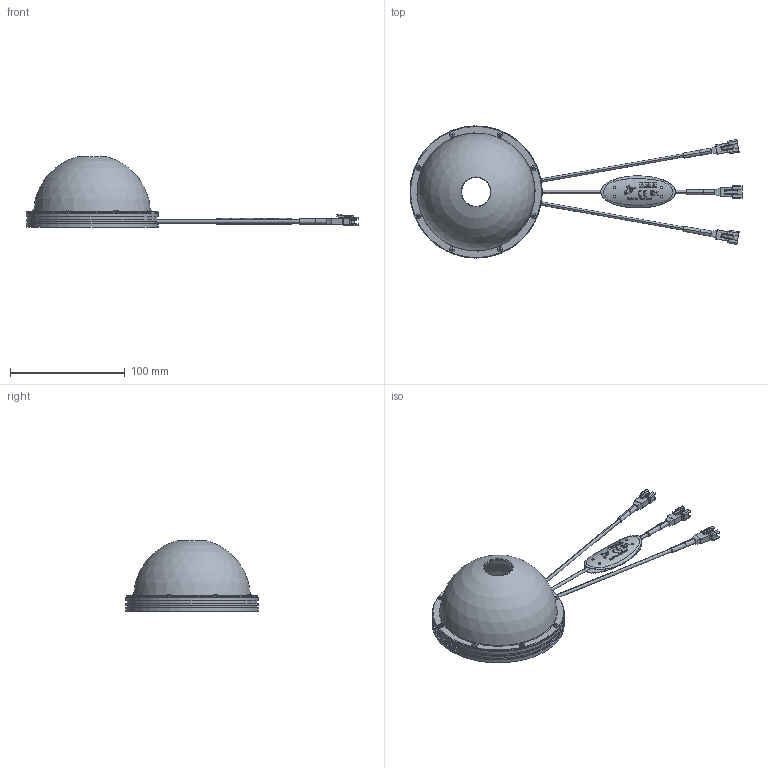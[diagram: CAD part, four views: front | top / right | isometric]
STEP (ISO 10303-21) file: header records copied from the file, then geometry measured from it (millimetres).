
FILE_DESCRIPTION( ('This file contains a STEP AP42 implementation' ,'as created by ZW3D STEP Interface translator.') ,'2;1' );
FILE_NAME( 'VDO-115RGB_DRAWING_3D.stp' ,'24 514. 915 9', (''), ('ZWCAD Software Co.'), 'Version 1.0', 'ZW3D to STEP translator', '' );
FILE_SCHEMA(('AUTOMOTIVE_DESIGN { 1 0 10303 214 1 1 1 1 }'));
Length unit declared in the file: millimetre
Products named in the file (10): 0; VDO-115RGB_DRAWING_3D; 3P; CABEL TAG (VS); DOME_115; BASE_115; MXB4949; TUBE R; TUBE B; TUBE G
Assembly tree (17 placements, depth 2):
  0
  VDO-115RGB_DRAWING_3D
    3P  x3
    CABEL TAG (VS)
    DOME_115
    BASE_115
    MXB4949  x8
    TUBE R
    TUBE B
    TUBE G
Bounding box: 288.97 x 115 x 61.32 mm (x, y, z)
Volume: 91058.5 mm3; surface area: 78023.7 mm2
Topology: 20 solids, 20 shells, 929 faces, 2667 edges, 1857 vertices
Faces by surface type: plane 538, cylinder 323, cone 23, sphere 18, bspline 14, torus 13
Full cylindrical faces by diameter (mm): 1.6 x32, 2 x8, 2.5 x8, 3.5 x8, 25 x1, 66 x1, 67.6 x1, 72.4 x1, 74 x1, 99 x1, 103 x1, 113 x1, 115 x3
Entity records: 17609 total; most frequent: CARTESIAN_POINT 5057, ORIENTED_EDGE 2646, DIRECTION 2218, EDGE_CURVE 1323, VERTEX_POINT 997, AXIS2_PLACEMENT_3D 777, VECTOR 664, LINE 664
